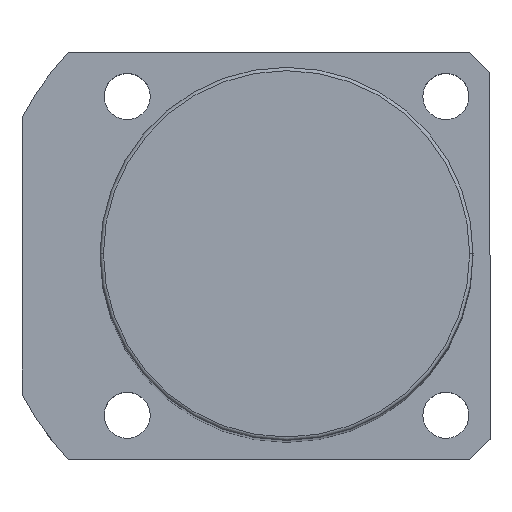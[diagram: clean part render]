
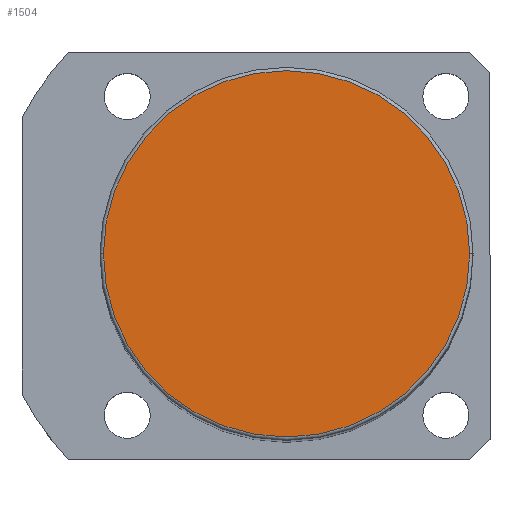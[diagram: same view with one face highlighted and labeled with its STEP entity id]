
A CAD part, top view. The second image highlights one B-rep face of the part: STEP entity #1504.
In plain terms, the highlighted planar face has unit normal (0, 0, 1).
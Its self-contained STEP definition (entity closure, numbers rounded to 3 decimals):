
#34 = PLANE ( 'NONE',  #342 ) ;
#144 = ORIENTED_EDGE ( 'NONE', *, *, #470, .T. ) ;
#225 = CARTESIAN_POINT ( 'NONE',  ( 27., 0., 181. ) ) ;
#287 = DIRECTION ( 'NONE',  ( 0., 0., 1. ) ) ;
#342 = AXIS2_PLACEMENT_3D ( 'NONE', #1254, #1592, #985 ) ;
#376 = AXIS2_PLACEMENT_3D ( 'NONE', #669, #1238, #1703 ) ;
#470 = EDGE_CURVE ( 'NONE', #636, #747, #1822, .T. ) ;
#524 = EDGE_LOOP ( 'NONE', ( #1618, #144 ) ) ;
#564 = CARTESIAN_POINT ( 'NONE',  ( 0., 0., 181. ) ) ;
#636 = VERTEX_POINT ( 'NONE', #1867 ) ;
#669 = CARTESIAN_POINT ( 'NONE',  ( 0., 0., 181. ) ) ;
#736 = CIRCLE ( 'NONE', #376, 27. ) ;
#747 = VERTEX_POINT ( 'NONE', #225 ) ;
#841 = DIRECTION ( 'NONE',  ( 1., 0., 0. ) ) ;
#985 = DIRECTION ( 'NONE',  ( 1., 0., 0. ) ) ;
#1095 = AXIS2_PLACEMENT_3D ( 'NONE', #564, #287, #841 ) ;
#1238 = DIRECTION ( 'NONE',  ( 0., 0., 1. ) ) ;
#1254 = CARTESIAN_POINT ( 'NONE',  ( 0., 0., 181. ) ) ;
#1439 = EDGE_CURVE ( 'NONE', #747, #636, #736, .T. ) ;
#1504 = ADVANCED_FACE ( 'NONE', ( #1906 ), #34, .T. ) ;
#1592 = DIRECTION ( 'NONE',  ( 0., 0., 1. ) ) ;
#1618 = ORIENTED_EDGE ( 'NONE', *, *, #1439, .T. ) ;
#1703 = DIRECTION ( 'NONE',  ( 1., 0., 0. ) ) ;
#1822 = CIRCLE ( 'NONE', #1095, 27. ) ;
#1867 = CARTESIAN_POINT ( 'NONE',  ( -27., 0., 181. ) ) ;
#1906 = FACE_OUTER_BOUND ( 'NONE', #524, .T. ) ;
